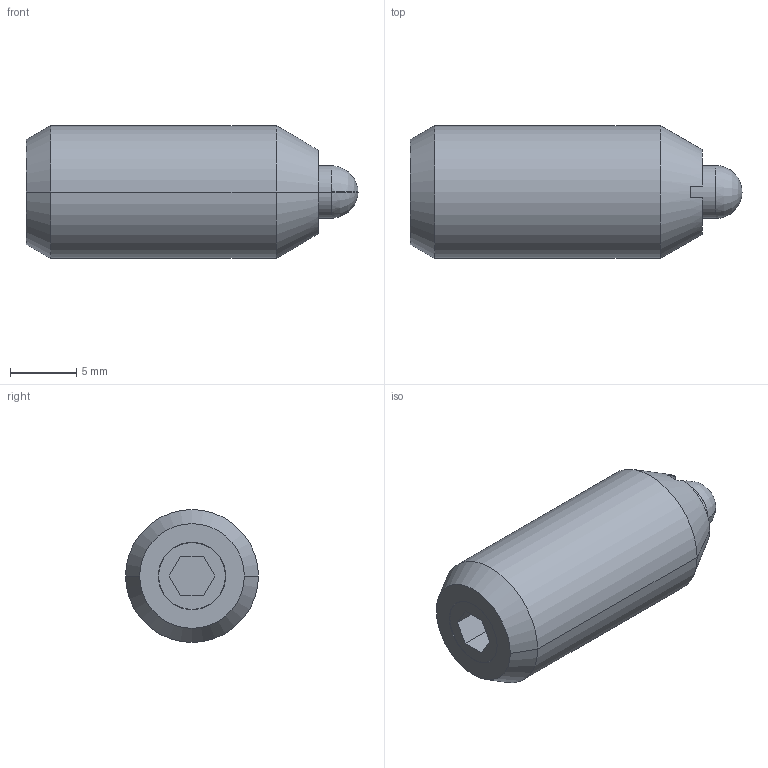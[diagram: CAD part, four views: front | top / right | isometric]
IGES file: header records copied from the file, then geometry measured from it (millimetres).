
Start section:  PTC IGES file: sm10a-3D.igs
Global section: file name: sm10a-3D.igs; native system: Pro/ENGINEER by Parametric Technology Corporation; preprocessor: 2002350; author: chant; organization: Unknown; date: 061031.162103; units: inch
Bounding box: 24.99 x 10.01 x 10.01 mm (x, y, z)
Surface area: 923.9 mm2 (no closed solid volume)
Topology: 0 solids, 0 shells, 32 faces, 222 edges, 280 vertices
Faces by surface type: bspline 16, revolution 16
